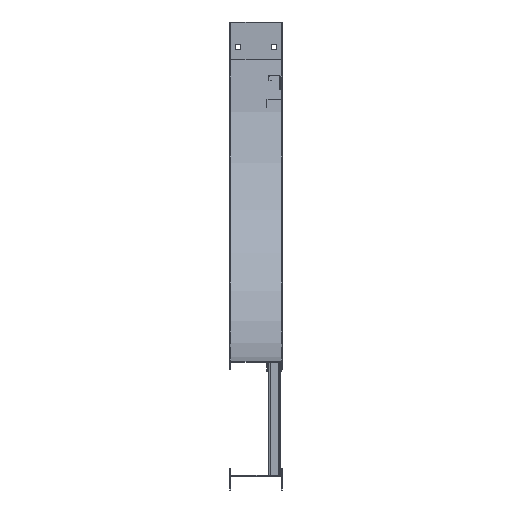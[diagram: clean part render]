
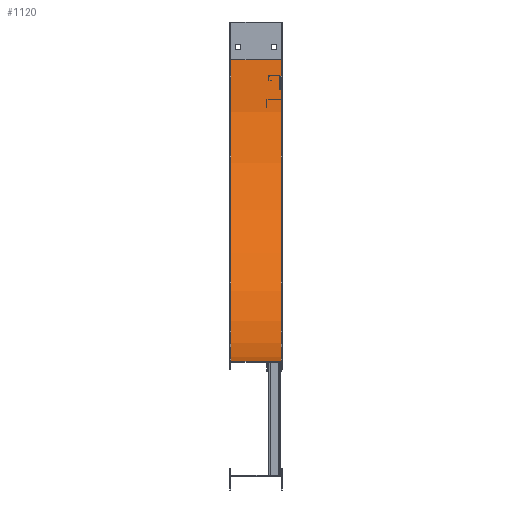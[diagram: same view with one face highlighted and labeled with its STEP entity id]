
A CAD part, left-side view. The second image highlights one B-rep face of the part: STEP entity #1120.
In plain terms, the highlighted cylindrical face has radius 609.6 mm (diameter 1219.2 mm), a partial arc.
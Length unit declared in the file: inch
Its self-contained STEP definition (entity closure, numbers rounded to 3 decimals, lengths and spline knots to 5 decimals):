
#157=CARTESIAN_POINT('',(4.095,-24.,3.));
#158=DIRECTION('',(1.,0.,0.));
#159=DIRECTION('',(0.,1.,0.));
#160=AXIS2_PLACEMENT_3D('',#157,#158,#159);
#350=DIRECTION('',(1.,0.,0.));
#351=VECTOR('',#350,4.015);
#352=CARTESIAN_POINT('',(0.08,-24.,27.));
#353=LINE('',#352,#351);
#390=DIRECTION('',(1.,0.,0.));
#391=VECTOR('',#390,4.015);
#392=CARTESIAN_POINT('',(0.08,0.,3.));
#393=LINE('',#392,#391);
#394=CARTESIAN_POINT('',(0.08,-24.,3.));
#395=DIRECTION('',(1.,0.,0.));
#396=DIRECTION('',(0.,1.,0.));
#397=AXIS2_PLACEMENT_3D('',#394,#395,#396);
#521=CARTESIAN_POINT('',(0.08,0.,3.));
#522=CARTESIAN_POINT('',(4.095,0.,3.));
#523=VERTEX_POINT('',#521);
#524=VERTEX_POINT('',#522);
#545=CARTESIAN_POINT('',(0.08,-24.,27.));
#546=CARTESIAN_POINT('',(4.095,-24.,27.));
#547=VERTEX_POINT('',#545);
#548=VERTEX_POINT('',#546);
#1109=CARTESIAN_POINT('',(-1.,-24.,3.));
#1110=DIRECTION('',(1.,0.,0.));
#1111=DIRECTION('',(0.,-1.,0.));
#1112=AXIS2_PLACEMENT_3D('',#1109,#1110,#1111);
#1113=CYLINDRICAL_SURFACE('',#1112,24.);
#1114=ORIENTED_EDGE('',*,*,#894,.F.);
#1115=ORIENTED_EDGE('',*,*,#935,.T.);
#1116=ORIENTED_EDGE('',*,*,#1082,.T.);
#1117=ORIENTED_EDGE('',*,*,#872,.F.);
#1118=EDGE_LOOP('',(#1114,#1115,#1116,#1117));
#1119=FACE_OUTER_BOUND('',#1118,.F.);
#1120=ADVANCED_FACE('',(#1119),#1113,.F.);
#161=CIRCLE('',#160,24.);
#398=CIRCLE('',#397,24.);
#872=EDGE_CURVE('',#524,#548,#161,.T.);
#894=EDGE_CURVE('',#523,#524,#393,.T.);
#935=EDGE_CURVE('',#523,#547,#398,.T.);
#1082=EDGE_CURVE('',#547,#548,#353,.T.);
